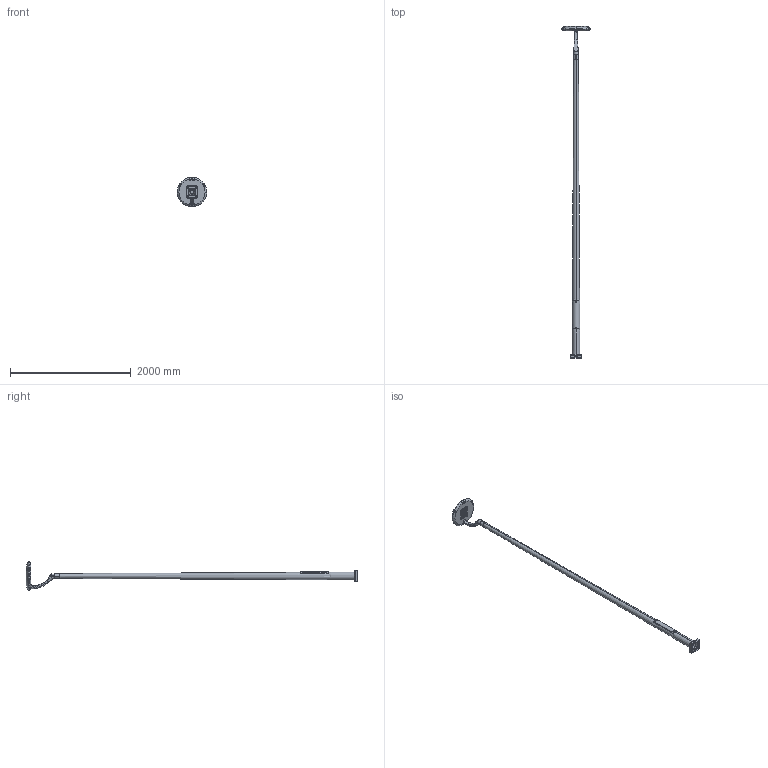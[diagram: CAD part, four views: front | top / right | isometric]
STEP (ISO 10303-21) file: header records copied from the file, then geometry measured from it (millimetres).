
FILE_DESCRIPTION (( 'STEP AP214' ), '1' );
FILE_NAME ('orba-1-5(40C)-(Ê170-130-4õ14)-ö+ïî.STEP', '2021-07-08T14:31:57', ( '' ), ( '' ), 'SwSTEP 2.0', 'SolidWorks 2020', '' );
FILE_SCHEMA (( 'AUTOMOTIVE_DESIGN' ));
Length unit declared in the file: millimetre
Products named in the file (19): BS-170(Ä128)-Ïîëóêðûøêà (170-130); ÎÊÊô-5,0 Ò76 (Ê170-130-4õ14)-orba-5; Ñòîéêà ÎÊÊô-5,0 Ò76-orba; BS-170(Ä128) -ïîëóêðûøêà (170-130); BS-170(Ä128)- Äåêîðàòèâíûé öîêîëü; orba-1-5(40C)-(Ê170-130-4õ14)-ö+ïî; 170õ170õ10 (130),ì.ö.130, 4õ14_Ôëàíåö; Ñâåòèëüíèê òîðøåðíûé MOON-STAR-C-40Âò; DIN-ðåéêà_ŽƒŠ-6; Ñòàíäàðíûå_Ðåçüáîâàÿ çàêë¸ïêà Ì6_Šàã£« ï à¥§ì¡®¢ ï § ª«¥¯ª  Œ8 á æ¨«¨­¤à¨ç¥áª¨¬ ¡ãàâ®¬ ®âªàëâ®£® â¨¯  ¨§ ­¥à¦ ¢¥îé¥© áâ «¨; Êðûøêà ëþêà ÎÊÊ-5-orba; socket button head screw_iso_ISO 7380 - M6 x 16 - 16N; Òðóáà 76õ80-orba; Ñâåòèëüíèê òîðøåðíûé  MOON-STAR -C, 40 Âò_’®àè¥à D; Êðåïëåíèå ñâåòèëüíèêà MOON-STAR-C-40Âò; BS-170(Ä128)-Ïëàòèê; Ïëàíêà çàçåìëåíèÿ 35õ20
Assembly tree (24 placements, depth 4):
  orba-1-5(40C)-(Ê170-130-4õ14)-ö+ïî
    ÎÊÊô-5,0 Ò76 (Ê170-130-4õ14)-orba-5
      Ñòîéêà ÎÊÊô-5,0 Ò76-orba
        Ñòîéêà ÎÊÊô-5,0 Ò76-orba
        170õ170õ10 (130),ì.ö.130, 4õ14_Ôëàíåö
        Ïëàíêà çàçåìëåíèÿ 35õ20
        DIN-ðåéêà_ŽƒŠ-6
        Òðóáà 76õ80-orba
      Êðûøêà ëþêà ÎÊÊ-5-orba
      Ñòàíäàðíûå_Ðåçüáîâàÿ çàêë¸ïêà Ì6_Šàã£« ï à¥§ì¡®¢ ï § ª«¥¯ª  Œ8 á æ¨«¨­¤à¨ç¥áª¨¬ ¡ãàâ®¬ ®âªàëâ®£® â¨¯  ¨§ ­¥à¦ ¢¥îé¥© áâ «¨  x2
      socket button head screw_iso_ISO 7380 - M6 x 16 - 16N  x2
    Ñâåòèëüíèê òîðøåðíûé  MOON-STAR -C, 40 Âò_’®àè¥à D
      Ñâåòèëüíèê òîðøåðíûé MOON-STAR-C-40Âò
      Êðåïëåíèå ñâåòèëüíèêà MOON-STAR-C-40Âò
    BS-170(Ä128)- Äåêîðàòèâíûé öîêîëü
      BS-170(Ä128)-Ïîëóêðûøêà (170-130)
        BS-170(Ä128) -ïîëóêðûøêà (170-130)
        BS-170(Ä128)-Ïëàòèê
      BS-170(Ä128)-Ïîëóêðûøêà (170-130)
        BS-170(Ä128) -ïîëóêðûøêà (170-130)
        BS-170(Ä128)-Ïëàòèê
      socket button head screw_iso_ISO 7380 - M6 x 16 - 16N  x2
Bounding box: 489.21 x 5489.07 x 490 mm (x, y, z)
Volume: 17518927.3 mm3; surface area: 4063301 mm2
Topology: 21 solids, 21 shells, 907 faces, 2009 edges, 1258 vertices
Faces by surface type: plane 363, cone 256, cylinder 194, torus 43, bspline 43, sphere 8
Entity records: 28340 total; most frequent: CARTESIAN_POINT 7389, DIRECTION 3661, ORIENTED_EDGE 3256, EDGE_CURVE 1628, AXIS2_PLACEMENT_3D 1483, VERTEX_POINT 1041, EDGE_LOOP 881, CIRCLE 753
